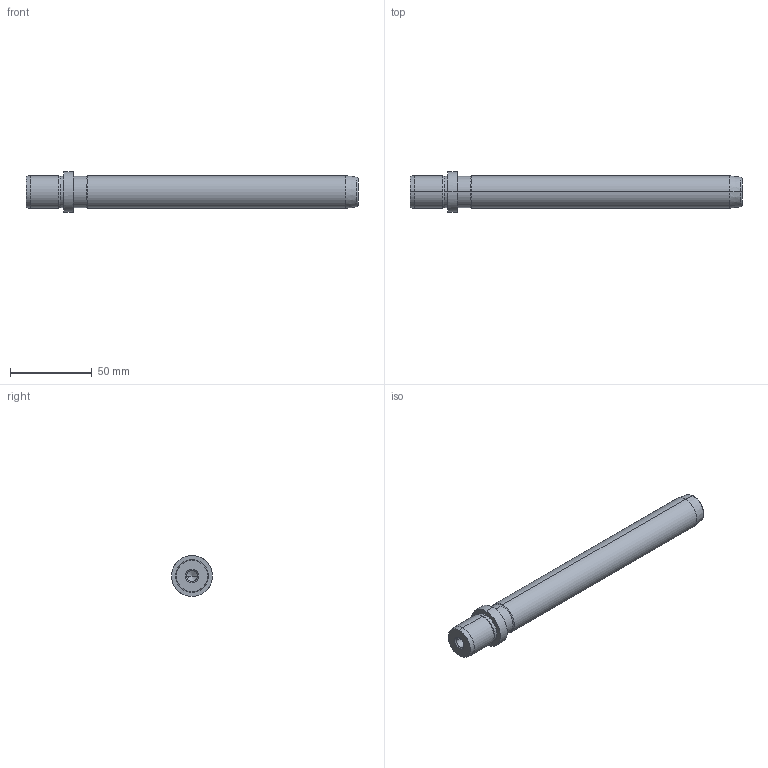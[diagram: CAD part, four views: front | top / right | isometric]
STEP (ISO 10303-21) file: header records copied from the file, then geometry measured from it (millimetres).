
FILE_DESCRIPTION(('CATIA V5 STEP Exchange'),'2;1');
FILE_NAME('C:\Users\Utente\Desktop\IO LAVORO\3D X SITO CF\X SITO\718\718-20x180.stp','2021-01-02T15:23:31+00:00',('none'),('none'),'CATIA Version 5 Release 20 GA (IN-10)','CATIA V5 STEP AP203','none');
FILE_SCHEMA(('CONFIG_CONTROL_DESIGN'));
Length unit declared in the file: millimetre
Products named in the file (1): 718-20x180
Bounding box: 203 x 25 x 25 mm (x, y, z)
Volume: 62499.7 mm3; surface area: 14748.3 mm2
Topology: 1 solids, 1 shells, 36 faces, 100 edges, 66 vertices
Faces by surface type: cone 16, cylinder 14, plane 4, torus 2
Entity records: 1291 total; most frequent: CARTESIAN_POINT 362, ORIENTED_EDGE 192, DIRECTION 157, EDGE_CURVE 96, AXIS2_PLACEMENT_3D 92, VERTEX_POINT 66, CIRCLE 55, EDGE_LOOP 40
